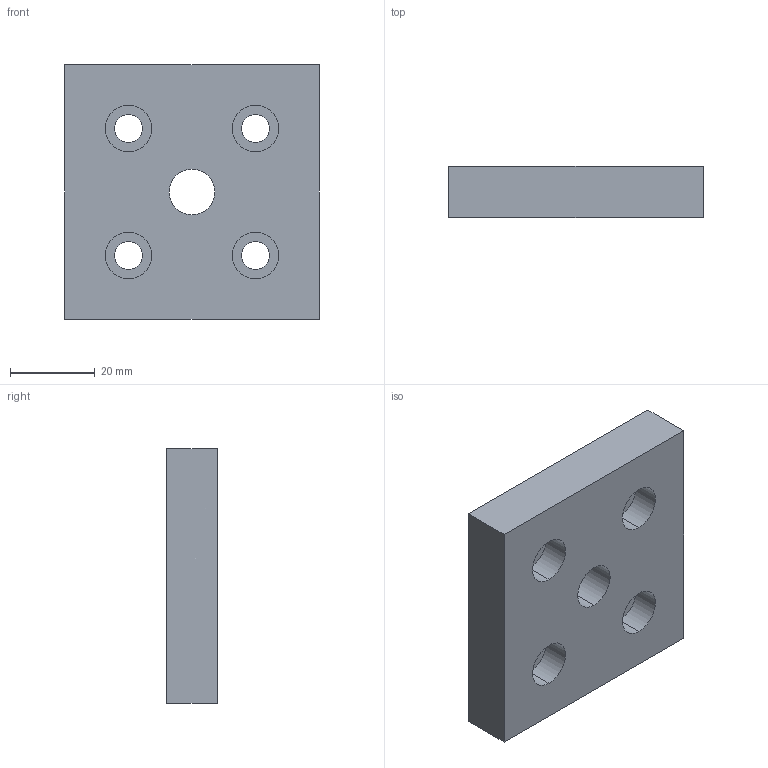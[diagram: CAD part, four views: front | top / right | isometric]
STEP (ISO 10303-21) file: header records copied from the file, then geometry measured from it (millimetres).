
FILE_DESCRIPTION (( 'STEP AP214' ), '1' );
FILE_NAME ('J3B66.step', '2017-05-24T07:38:08', ( 'admin' ), ( '' ), 'SwSTEP 2.0', 'SolidWorks 2014', '' );
FILE_SCHEMA (( 'AUTOMOTIVE_DESIGN' ));
Length unit declared in the file: millimetre
Products named in the file (1): J3B66
Bounding box: 60 x 12 x 60 mm (x, y, z)
Volume: 38877.2 mm3; surface area: 11384.9 mm2
Topology: 1 solids, 1 shells, 28 faces, 66 edges, 44 vertices
Faces by surface type: cylinder 18, plane 10
Entity records: 902 total; most frequent: DIRECTION 160, CARTESIAN_POINT 139, ORIENTED_EDGE 132, EDGE_CURVE 66, AXIS2_PLACEMENT_3D 65, VERTEX_POINT 44, EDGE_LOOP 42, CIRCLE 36
